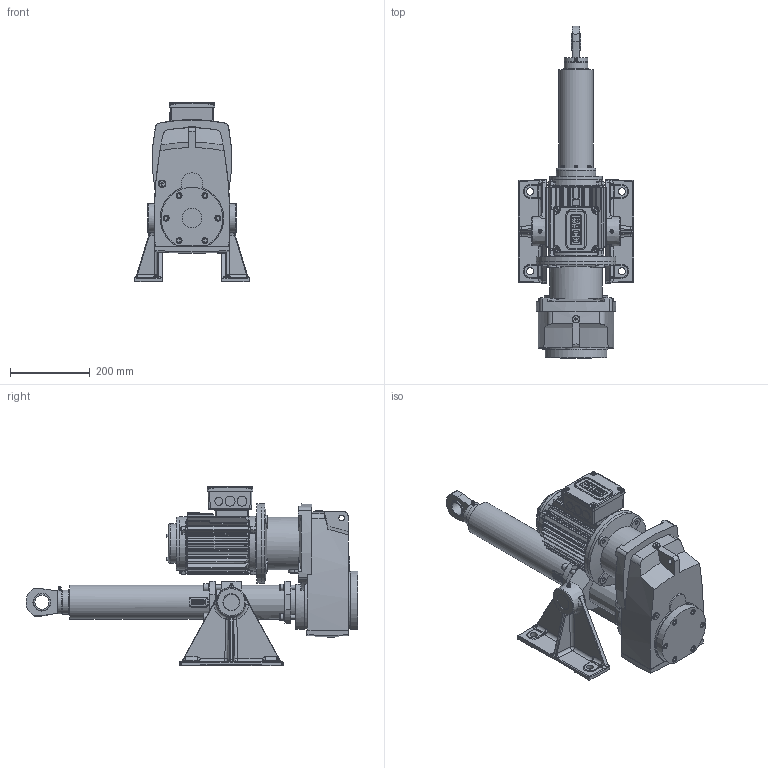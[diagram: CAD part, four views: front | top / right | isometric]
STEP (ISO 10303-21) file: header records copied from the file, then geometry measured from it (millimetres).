
FILE_DESCRIPTION( ( 'Unknown' ), '1' );
FILE_NAME( 'C:/TEMP/RM/fxp/web/T6P7-0400-161-072-4.stp', 'Unknown', ( 'Christoph Hahmann' ), ( 'RACO-ELEKTRO-MASCHINEN GmbH' ), 'PSStep 17.0.49', 'Solide Edge St7', ' ' );
FILE_SCHEMA( ( 'AUTOMOTIVE_DESIGN { 1 0 10303 214 1 1 1 1 }' ) );
Length unit declared in the file: millimetre
Products named in the file (14): Assem1; SK2282AZ-IEC90; 05.51-C7; 02.43-C7; 02.13-C7; Drehzapfenaufnahme_kpl; 03.65-C7_kpl; 02.14-C7-0400; 01.15-C7-0400; 01.01-C7_kpl_Gelenkkopf; 80G-B5; 100-672-0; Klemmenkasten
Assembly tree (13 placements, depth 2):
  Assem1
    SK2282AZ-IEC90
    05.51-C7
    02.43-C7
    02.13-C7
    Drehzapfenaufnahme_kpl
    03.65-C7_kpl
    03.65-C7_kpl
    02.14-C7-0400
    01.15-C7-0400
    01.01-C7_kpl_Gelenkkopf
    80G-B5
    100-672-0
    Klemmenkasten
Bounding box: 290 x 832.8 x 451.25 mm (x, y, z)
Volume: 17997290.9 mm3; surface area: 1505460.4 mm2
Topology: 13 solids, 27 shells, 2153 faces, 5290 edges, 3359 vertices
Faces by surface type: plane 1039, cylinder 708, cone 169, bspline 154, torus 66, sphere 17
Full cylindrical faces by diameter (mm): 1 x11, 4.3 x4, 5 x6, 5.3 x4, 5.7 x3, 5.8 x3, 5.999 x9, 6.6 x9, 8 x2, 8.5 x6, 9.15 x3, 9.6 x4, 10 x11, 12 x13, 13 x10, 13.4 x10, 14 x1, 15 x10, 15.5 x4, 16 x4, 16.2 x4, 17 x4, 18 x8, 18.2 x4, 19 x4, 20 x1, 25 x2, 35 x1, 40 x4, 50 x3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
Entity records: 96861 total; most frequent: CARTESIAN_POINT 31649, DIRECTION 9782, ORIENTED_EDGE 9588, EDGE_CURVE 4794, AXIS2_PLACEMENT_3D 3714, VERTEX_POINT 3211, EDGE_LOOP 2687, FACE_OUTER_BOUND 2372
